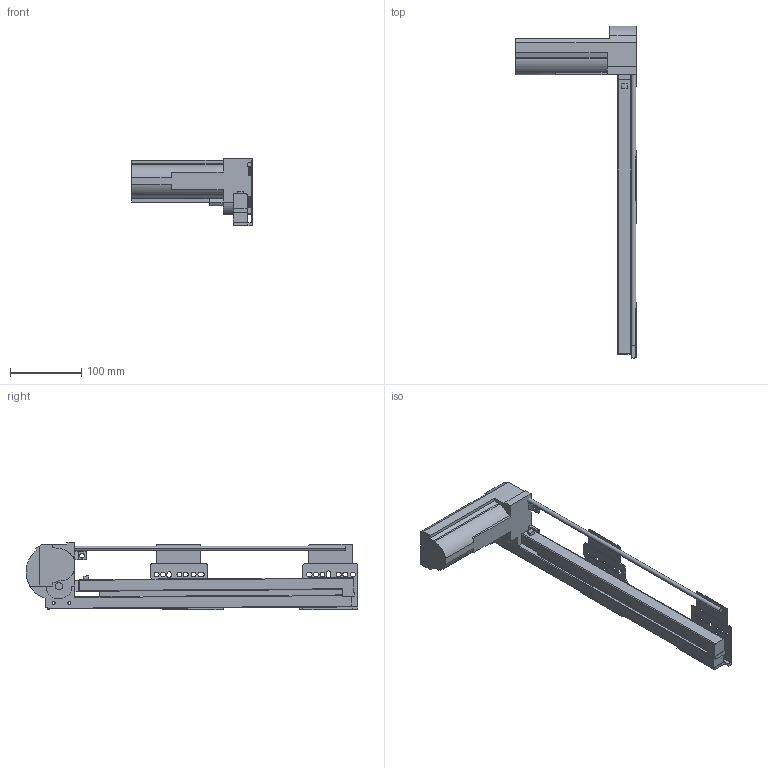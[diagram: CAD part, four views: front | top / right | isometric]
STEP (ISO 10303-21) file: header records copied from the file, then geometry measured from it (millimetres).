
FILE_DESCRIPTION (( 'STEP AP214' ), '1' );
FILE_NAME ('_IMOS_NOVA-Pro_Sensotronic_KS_P907_RE_NL-400_EB29mm.step', '2010-07-23T08:19:58', ( 'grass' ), ( '' ), 'SwSTEP 2.0', 'SolidWorks 2009', '' );
FILE_SCHEMA (( 'AUTOMOTIVE_DESIGN' ));
Length unit declared in the file: millimetre
Products named in the file (1): _IMOS_NOVA-Pro_Sensotronic_KS_P907_RE_NL-400_EB29mm
Bounding box: 169.95 x 466.62 x 94.75 mm (x, y, z)
Volume: 805206 mm3; surface area: 147154.3 mm2
Topology: 3 solids, 3 shells, 194 faces, 554 edges, 368 vertices
Faces by surface type: plane 119, cylinder 75
Entity records: 6477 total; most frequent: CARTESIAN_POINT 1129, ORIENTED_EDGE 1108, DIRECTION 1095, EDGE_CURVE 554, LINE 395, VECTOR 395, VERTEX_POINT 368, AXIS2_PLACEMENT_3D 350
